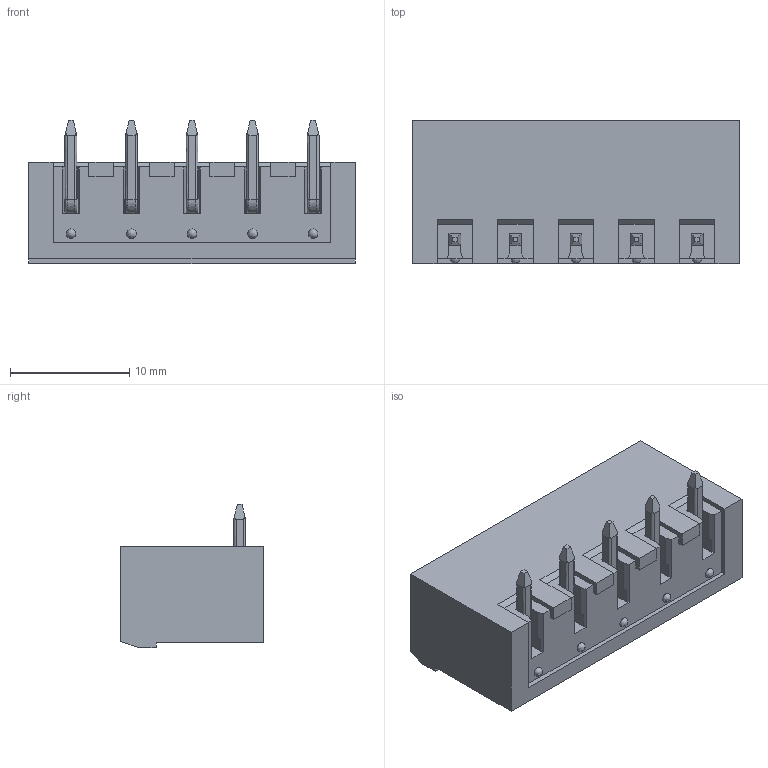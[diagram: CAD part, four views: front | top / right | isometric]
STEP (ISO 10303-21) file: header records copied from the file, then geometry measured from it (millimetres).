
FILE_DESCRIPTION (( 'STEP AP214' ), '1' );
FILE_NAME ('8930-G085120GBA05RB.STEP', '2017-05-25T05:50:11', ( 'admin' ), ( '' ), 'SwSTEP 2.0', 'SolidWorks 2011', '' );
FILE_SCHEMA (( 'AUTOMOTIVE_DESIGN' ));
Length unit declared in the file: millimetre
Products named in the file (2): 8930-G085120GBA05RB
Assembly tree (1 placements, depth 2):
  8930-G085120GBA05RB
    8930-G085120GBA05RB
Bounding box: 27.4 x 12 x 12 mm (x, y, z)
Surface area: 2624.5 mm2 (no closed solid volume)
Topology: 0 solids, 7 shells, 451 faces, 1269 edges, 826 vertices
Faces by surface type: plane 302, bspline 149
Entity records: 19057 total; most frequent: CARTESIAN_POINT 8904, ORIENTED_EDGE 2515, DIRECTION 1411, EDGE_CURVE 1259, VERTEX_POINT 826, LINE 759, VECTOR 759, EDGE_LOOP 466
